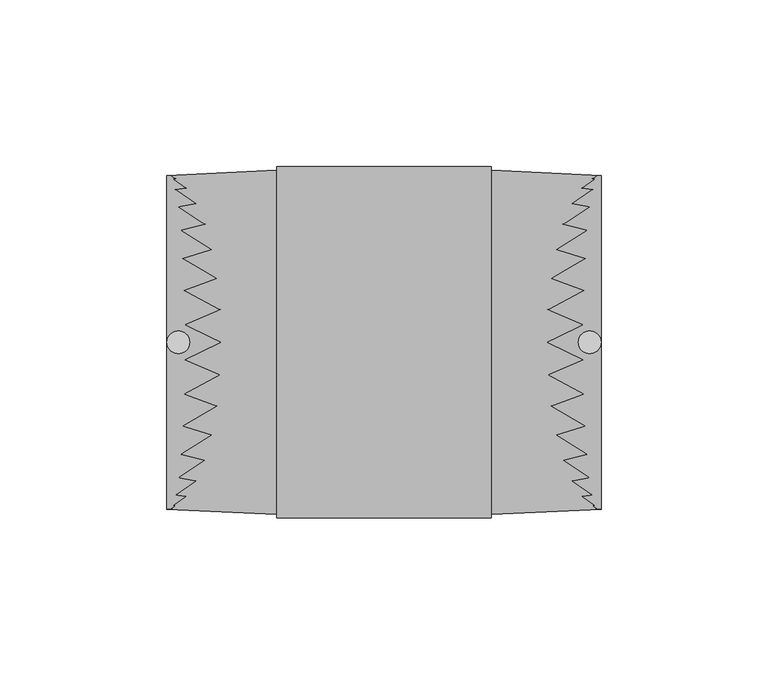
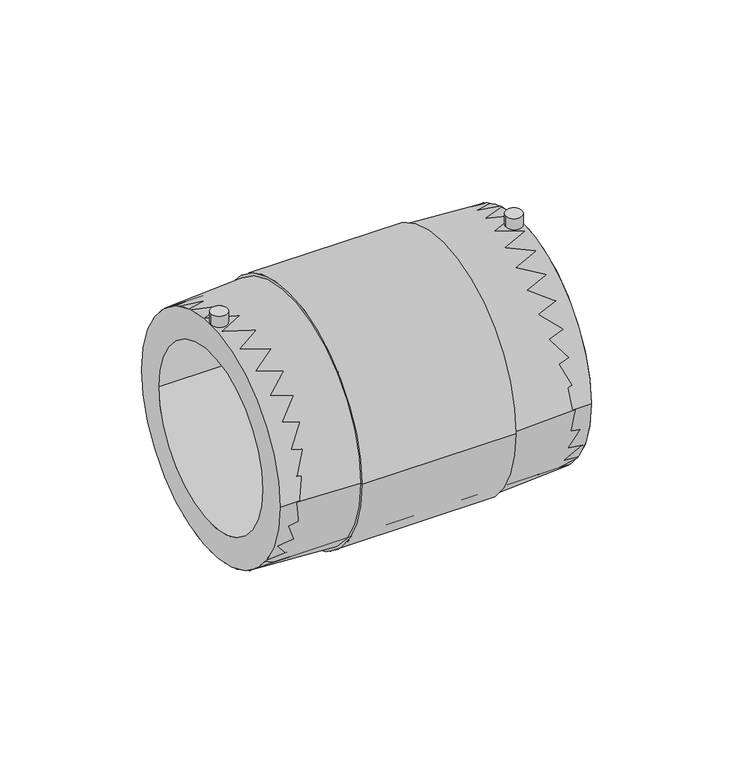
"""IFC4 building model written with IfcOpenShell, lengths in millimetres: pipe fitting geometry, EGB_VASEN_ PPR_Manguito electrosoldable WXRD100 : Manguito electrosoldable WXRD100."""

from ifc_helpers import new_model, si_unit, point, frame, frame_2d, origin, origin_2d, place, context, project, spatial, polyline, circle_curve, trimmed, segment, composite_curve, outline, extrude, source, transform, mapped, element, save
from ifc_brep_helpers import plane_surface, cylinder_surface, revolved_surface, advanced_brep


def pipe_fitting_3998e181(model_context):
    return source(origin(), model_context, "Body", "SolidModel", [
        extrude(outline(composite_curve([segment(trimmed(circle_curve(origin_2d(), 50.0), [point((-50.0, 0.0))], [point((50.0, 0.0))], False, "CARTESIAN"), True, "CONTINUOUS"), segment(trimmed(circle_curve(origin_2d(), 50.0), [point((50.0, 0.0))], [point((-50.0, 0.0))], False, "CARTESIAN"), True, "CONTINUOUS")], self_intersect=False), holes=[composite_curve([segment(trimmed(circle_curve(origin_2d(), 37.5), [point((-37.5, 0.0))], [point((37.5, 0.0))], True, "CARTESIAN"), True, "CONTINUOUS"), segment(trimmed(circle_curve(origin_2d(), 37.5), [point((37.5, 0.0))], [point((-37.5, 0.0))], True, "CARTESIAN"), True, "CONTINUOUS")], self_intersect=False)]), frame((-65.0, 0.0, 0.0), z_axis=(1.0, 0.0, 0.0), x_axis=(0.0, 1.0, 0.0)), (0.0, 0.0, 1.0), 130.0),
        extrude(outline(composite_curve([segment(trimmed(circle_curve(frame_2d((-61.5878802, 0.0)), 3.4121198), [point((-65.0, 0.0))], [point((-58.1757605, 0.0))], False, "CARTESIAN"), True, "CONTINUOUS"), segment(trimmed(circle_curve(frame_2d((-61.5878802, 0.0)), 3.4121198), [point((-58.1757605, 0.0))], [point((-65.0, 0.0))], False, "CARTESIAN"), True, "CONTINUOUS")], self_intersect=False)), frame((0.0, 0.0, 39.5), z_axis=(0.0, 0.0, 1.0), x_axis=(1.0, 0.0, 0.0)), (0.0, 0.0, 1.0), 15.5),
        extrude(outline(composite_curve([segment(trimmed(circle_curve(frame_2d((61.5878802, 0.0)), 3.4121198), [point((58.1757605, 0.0))], [point((65.0, 0.0))], False, "CARTESIAN"), True, "CONTINUOUS"), segment(trimmed(circle_curve(frame_2d((61.5878802, 0.0)), 3.4121198), [point((65.0, 0.0))], [point((58.1757605, 0.0))], False, "CARTESIAN"), True, "CONTINUOUS")], self_intersect=False)), frame((0.0, 0.0, 39.5), z_axis=(0.0, 0.0, 1.0), x_axis=(1.0, 0.0, 0.0)), (0.0, 0.0, 1.0), 15.5),
        advanced_brep(
        [(32.1, -51.582849, 0.0), (32.1, 51.582849, 0.0), (65.0, 50.0, 0.0), (65.0, -50.0, 0.0), (32.1, -52.582849, 0.0), (32.1, 52.582849, 0.0), (-32.1, -52.582849, 0.0), (-32.1, 52.582849, 0.0), (-32.1, -51.582849, 0.0), (-32.1, 51.582849, 0.0), (-65.0, -50.0, 0.0), (-65.0, 50.0, 0.0)],
        [
            (0, 1, circle_curve(frame((32.1, 0.0, 0.0), z_axis=(1.0, 0.0, 0.0), x_axis=(0.0, 1.0, 0.0)), 51.582849)),
            (1, 2),
            (2, 3, circle_curve(frame((65.0, 0.0, 0.0), z_axis=(-1.0, 0.0, 0.0), x_axis=(0.0, 1.0, 0.0)), 50.0)),
            (3, 0),
            (1, 0, circle_curve(frame((32.1, 0.0, 0.0), z_axis=(1.0, 0.0, 0.0), x_axis=(0.0, 1.0, 0.0)), 51.582849)),
            (3, 2, circle_curve(frame((65.0, 0.0, 0.0), z_axis=(-1.0, 0.0, 0.0), x_axis=(0.0, 1.0, 0.0)), 50.0)),
            (4, 5, circle_curve(frame((32.1, 0.0, 0.0), z_axis=(1.0, 0.0, 0.0), x_axis=(0.0, 1.0, 0.0)), 52.582849)),
            (5, 1),
            (0, 4),
            (5, 4, circle_curve(frame((32.1, 0.0, 0.0), z_axis=(1.0, 0.0, 0.0), x_axis=(0.0, 1.0, 0.0)), 52.582849)),
            (6, 7, circle_curve(frame((-32.1, 0.0, 0.0), z_axis=(1.0, 0.0, 0.0), x_axis=(0.0, 1.0, 0.0)), 52.582849)),
            (7, 5),
            (4, 6),
            (7, 6, circle_curve(frame((-32.1, 0.0, 0.0), z_axis=(1.0, 0.0, 0.0), x_axis=(0.0, 1.0, 0.0)), 52.582849)),
            (8, 9, circle_curve(frame((-32.1, 0.0, 0.0), z_axis=(1.0, 0.0, 0.0), x_axis=(0.0, 1.0, 0.0)), 51.582849)),
            (9, 7),
            (6, 8),
            (9, 8, circle_curve(frame((-32.1, 0.0, 0.0), z_axis=(1.0, 0.0, 0.0), x_axis=(0.0, 1.0, 0.0)), 51.582849)),
            (10, 11, circle_curve(frame((-65.0, 0.0, 0.0), z_axis=(1.0, 0.0, 0.0), x_axis=(0.0, 1.0, 0.0)), 50.0)),
            (11, 9),
            (8, 10),
            (11, 10, circle_curve(frame((-65.0, 0.0, 0.0), z_axis=(1.0, 0.0, 0.0), x_axis=(0.0, 1.0, 0.0)), 50.0)),
            (2, 11),
            (10, 3),
        ],
        [
            revolved_surface(polyline([(65.0, 50.0, 0.0), (32.1, 51.582849, 0.0)]), (-58.7721997, 0.0, 0.0), (-1.0, 0.0, 0.0)),
            plane_surface(frame((32.1, 0.0, 0.0), z_axis=(1.0, 0.0, 0.0), x_axis=(0.0, 1.0, 0.0))),
            cylinder_surface(frame((-58.7721997, 0.0, 0.0), z_axis=(-1.0, 0.0, 0.0), x_axis=(0.0, 1.0, 0.0)), 52.582849),
            plane_surface(frame((-32.1, 0.0, 0.0), z_axis=(-1.0, 0.0, 0.0), x_axis=(0.0, 1.0, 0.0))),
            revolved_surface(polyline([(-32.1, 51.582849, 0.0), (-65.0, 50.0, 0.0)]), (-58.7721997, 0.0, 0.0), (-1.0, 0.0, 0.0)),
            revolved_surface(polyline([(-65.0, 50.0, 0.0), (65.0, 50.0, 0.0)]), (-58.7721997, 0.0, 0.0), (-1.0, 0.0, 0.0)),
        ],
        [
            (0, [[1, 2, 3, 4]]),
            (0, [[5, -4, 6, -2]]),
            (1, [[7, 8, -1, 9]]),
            (1, [[10, -9, -5, -8]]),
            (2, [[11, 12, -7, 13]]),
            (2, [[14, -13, -10, -12]]),
            (3, [[15, 16, -11, 17]]),
            (3, [[18, -17, -14, -16]]),
            (4, [[19, 20, -15, 21]]),
            (4, [[22, -21, -18, -20]]),
            (5, [[-3, 23, -19, 24]]),
            (5, [[-6, -24, -22, -23]]),
        ],
    ),
    ])


if __name__ == "__main__":
    model = new_model("IFC4")
    model_context = context("Model", 3, world=origin())
    ifc_project = project(units=[si_unit("LENGTHUNIT", "METRE", prefix="MILLI")], contexts=[model_context])
    site = spatial("IfcSite", under=ifc_project)
    building = spatial("IfcBuilding", under=site)
    placement = place(None, origin())
    pipe_fitting_shape = pipe_fitting_3998e181(model_context)
    element("IfcPipeFitting", 1, ObjectType="EGB_VASEN_ PPR_Manguito electrosoldable WXRD100 : Manguito electrosoldable WXRD100", at=placement, inside=building, context=model_context, shape_type="MappedRepresentation", body=[
        mapped(pipe_fitting_shape, transform((0.0, 0.0, 0.0), x_axis=(1.0, 0.0, 0.0), y_axis=(0.0, 1.0, 0.0), z_axis=(0.0, 0.0, 1.0))),
    ])
    save(model, "model.ifc")
